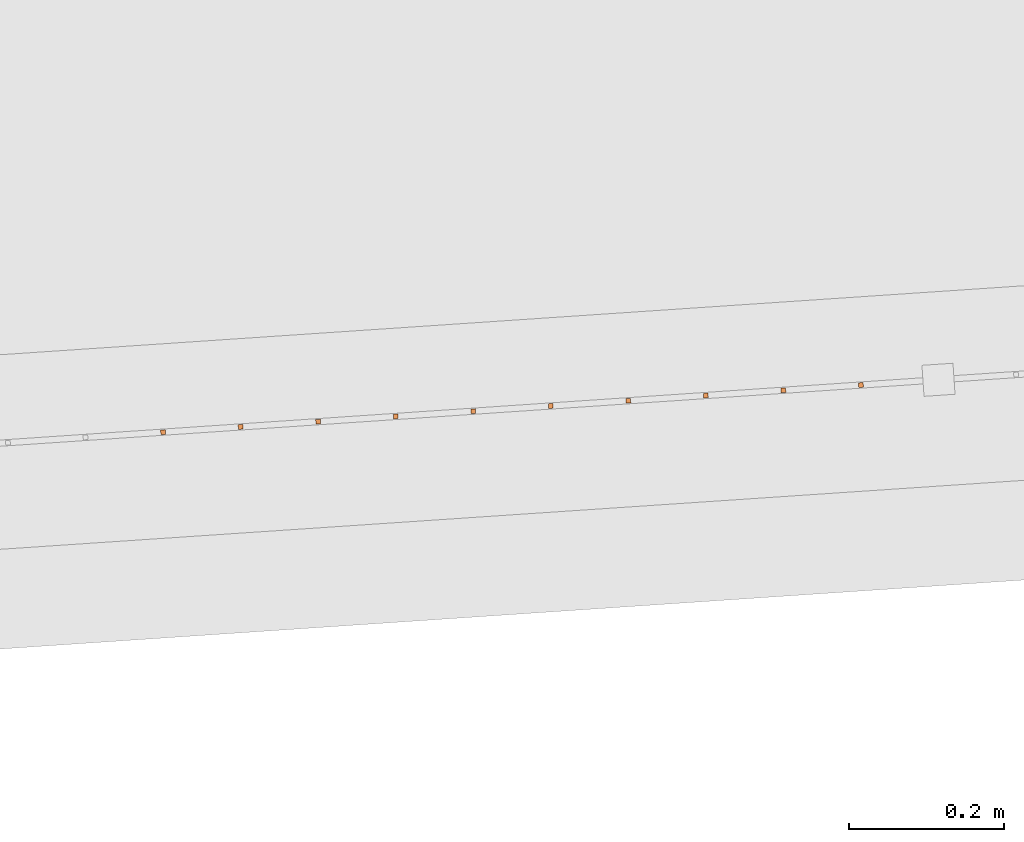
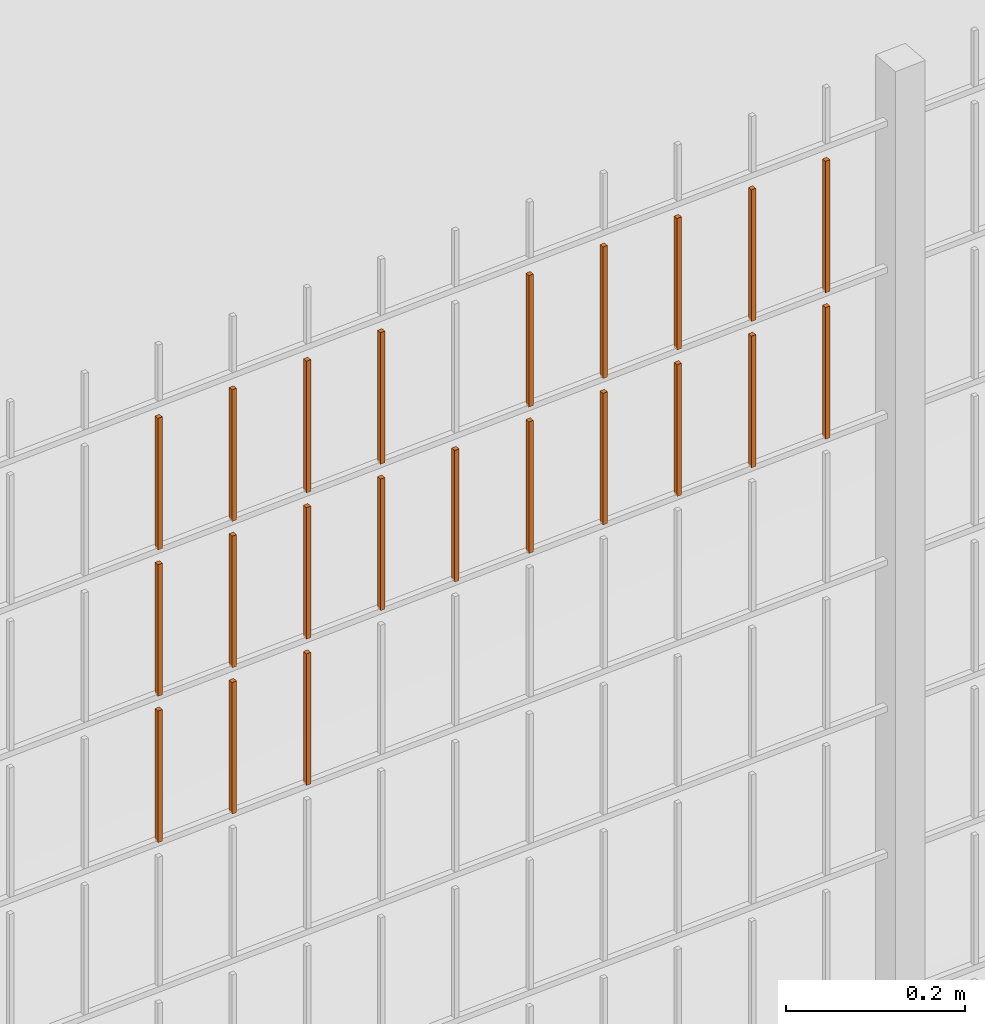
# One storey, part 153 of 1809: 22 proxies, 1 element without a shape of its own.
"""IFC2X3 building model written with IfcOpenShell, lengths in millimetres."""

from ifc_helpers import new_model, entity, si_unit, converted_unit, derived_unit, money_unit, direction, frame, origin_with_axes, place, context, subcontext, project, spatial, faceted_brep, source, transform, mapped, material, type_object, element, aggregate, save


model = new_model("IFC2X3")

# Units and contexts
model_context = context("Model", 3, precision=0.01, world=origin_with_axes(), true_north=direction((0.0, 1.0)))
body_context = subcontext(model_context, "Body", "Model", "MODEL_VIEW")
ifc_project = project(units=[si_unit("LENGTHUNIT", "METRE", prefix="MILLI"), si_unit("AREAUNIT", "SQUARE_METRE"), si_unit("VOLUMEUNIT", "CUBIC_METRE"), converted_unit("PLANEANGLEUNIT", "DEGREE", entity("IfcPlaneAngleMeasure", 0.0174532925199), si_unit("PLANEANGLEUNIT", "RADIAN"), dimensions=[0, 0, 0, 0, 0, 0, 0]), si_unit("SOLIDANGLEUNIT", "STERADIAN"), money_unit("EUR"), converted_unit("TIMEUNIT", "Year", entity("IfcTimeMeasure", 31556926.0), si_unit("TIMEUNIT", "SECOND"), dimensions=[0, 0, 1, 0, 0, 0, 0]), si_unit("MASSUNIT", "GRAM", prefix="KILO"), si_unit("THERMODYNAMICTEMPERATUREUNIT", "DEGREE_CELSIUS"), si_unit("LUMINOUSINTENSITYUNIT", "LUMEN"), si_unit("ENERGYUNIT", "JOULE", prefix="MEGA"), derived_unit("THERMALCONDUCTANCEUNIT", [(si_unit("POWERUNIT", "WATT"), 1), (si_unit("LENGTHUNIT", "METRE"), -1), (si_unit("THERMODYNAMICTEMPERATUREUNIT", "KELVIN"), -1)]), derived_unit("SPECIFICHEATCAPACITYUNIT", [(si_unit("ENERGYUNIT", "JOULE"), 1), (si_unit("MASSUNIT", "GRAM", prefix="KILO"), -1), (si_unit("THERMODYNAMICTEMPERATUREUNIT", "KELVIN"), -1)]), derived_unit("MASSDENSITYUNIT", [(si_unit("MASSUNIT", "GRAM", prefix="KILO"), 1), (si_unit("VOLUMEUNIT", "CUBIC_METRE"), -1)])], contexts=[model_context])

# Site, building, storey
site_placement = place(None, origin_with_axes())
site = spatial("IfcSite", under=ifc_project, at=site_placement, Name="Politse- ja Piirivalveameti ning Päästeameti ühishoone", CompositionType="ELEMENT")
building_placement = place(site_placement, origin_with_axes())
building = spatial("IfcBuilding", under=site, at=building_placement, Name="Politse- ja Piirivalveameti ning Päästeameti ühishoone", CompositionType="ELEMENT")
storey_placement = place(building_placement, origin_with_axes())
storey = spatial("IfcBuildingStorey", under=building, at=storey_placement, Name="Esimene korrus", CompositionType="ELEMENT", Elevation=0.0)

# Proxies
building_element_proxy_type_1 = type_object("IfcBuildingElementProxyType", Name="Railing Type", PredefinedType="NOTDEFINED")
proxy_1_placement = place(storey_placement, frame((89252.001212, -29183.4766571, 203.661247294), z_axis=(0.0, 0.0, 1.0), x_axis=(1.0, 0.0, 0.0)))
proxy_1 = element("IfcBuildingElementProxy", 1, at=proxy_1_placement, inside=storey, type_object=building_element_proxy_type_1, Name="PIIRDEAED")
ifc_material = material(Name="ET-03_Raud")
building_element_proxy_type_2 = type_object("IfcBuildingElementProxyType", Name="IfcBuildingElementProxy", PredefinedType="NOTDEFINED")
shared_shape_1 = source(origin_with_axes(), body_context, "Body", "Brep", [
    faceted_brep([(3.0, 3.0, -0.000752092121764), (-3.0, 3.0, -0.000752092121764), (-3.0, 3.0, 179.99926046), (3.0, 3.0, 179.99926046), (3.0, -3.0, 0.000752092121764), (-3.0, -3.0, 0.000752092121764), (-3.0, -3.0, 180.000764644), (3.0, -3.0, 180.000764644)], [[[0, 1, 2, 3]], [[0, 4, 5, 1]], [[1, 5, 6, 2]], [[3, 2, 6, 7]], [[4, 0, 3, 7]], [[5, 4, 7, 6]]]),
])
proxy_2_placement = place(proxy_1_placement, frame((-82339.0660394, -22859.4679361, 1606.54516156), z_axis=(0.0, 0.0, 1.0), x_axis=(1.0, 0.0, 0.0)))
proxy_2 = element("IfcBuildingElementProxy", 2, at=proxy_2_placement, type_object=building_element_proxy_type_2, material=ifc_material, Name="BALUSTER - 001", context=body_context, shape_type="MappedRepresentation", body=[
    mapped(shared_shape_1, transform((0.0, 0.0, 0.0), x_axis=(-0.0673926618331, 0.997726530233, 0.0), y_axis=(-0.997726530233, -0.0673926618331, 0.0), z_axis=(0.0, 0.0, 1.0))),
])
shared_shape_2 = source(origin_with_axes(), body_context, "Body", "Brep", [
    faceted_brep([(3.0, 3.0, -0.000752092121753), (-3.0, 3.0, -0.000752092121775), (-3.0, 3.0, 179.99926046), (3.0, 3.0, 179.99926046), (3.0, -3.0, 0.000752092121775), (-3.0, -3.0, 0.000752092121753), (-3.0, -3.0, 180.000764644), (3.0, -3.0, 180.000764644)], [[[0, 1, 2, 3]], [[0, 4, 5, 1]], [[1, 5, 6, 2]], [[3, 2, 6, 7]], [[4, 0, 3, 7]], [[5, 4, 7, 6]]]),
])
proxy_3_placement = place(proxy_1_placement, frame((-82837.9293045, -22893.1642671, 1606.41981287), z_axis=(0.0, 0.0, 1.0), x_axis=(1.0, 0.0, 0.0)))
proxy_3 = element("IfcBuildingElementProxy", 3, at=proxy_3_placement, type_object=building_element_proxy_type_2, material=ifc_material, Name="BALUSTER - 001", context=body_context, shape_type="MappedRepresentation", body=[
    mapped(shared_shape_2, transform((0.0, 0.0, 0.0), x_axis=(-0.0673926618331, 0.997726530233, 0.0), y_axis=(-0.997726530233, -0.0673926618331, 0.0), z_axis=(0.0, 0.0, 1.0))),
])
shared_shape_3 = source(origin_with_axes(), body_context, "Body", "Brep", [
    faceted_brep([(3.0, 3.0, -0.000752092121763), (-3.0, 3.0, -0.000752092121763), (-3.0, 3.0, 179.99926046), (3.0, 3.0, 179.99926046), (3.0, -3.0, 0.000752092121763), (-3.0, -3.0, 0.000752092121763), (-3.0, -3.0, 180.000764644), (3.0, -3.0, 180.000764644)], [[[0, 1, 2, 3]], [[0, 4, 5, 1]], [[1, 5, 6, 2]], [[3, 2, 6, 7]], [[4, 0, 3, 7]], [[5, 4, 7, 6]]]),
])
proxy_4_placement = place(proxy_1_placement, frame((-82339.0660394, -22859.4679361, 1806.54516156), z_axis=(0.0, 0.0, 1.0), x_axis=(1.0, 0.0, 0.0)))
proxy_4 = element("IfcBuildingElementProxy", 4, at=proxy_4_placement, type_object=building_element_proxy_type_2, material=ifc_material, Name="BALUSTER - 001", context=body_context, shape_type="MappedRepresentation", body=[
    mapped(shared_shape_3, transform((0.0, 0.0, 0.0), x_axis=(-0.0673926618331, 0.997726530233, 0.0), y_axis=(-0.997726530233, -0.0673926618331, 0.0), z_axis=(0.0, 0.0, 1.0))),
])
shared_shape_4 = source(origin_with_axes(), body_context, "Body", "Brep", [
    faceted_brep([(3.0, 3.0, -0.000752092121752), (-3.0, 3.0, -0.000752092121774), (-3.0, 3.0, 179.99926046), (3.0, 3.0, 179.99926046), (3.0, -3.0, 0.000752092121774), (-3.0, -3.0, 0.000752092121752), (-3.0, -3.0, 180.000764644), (3.0, -3.0, 180.000764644)], [[[0, 1, 2, 3]], [[0, 4, 5, 1]], [[1, 5, 6, 2]], [[3, 2, 6, 7]], [[4, 0, 3, 7]], [[5, 4, 7, 6]]]),
])
proxy_5_placement = place(proxy_1_placement, frame((-83137.2472636, -22913.3820656, 1806.34460366), z_axis=(0.0, 0.0, 1.0), x_axis=(1.0, 0.0, 0.0)))
proxy_5 = element("IfcBuildingElementProxy", 5, at=proxy_5_placement, type_object=building_element_proxy_type_2, material=ifc_material, Name="BALUSTER - 001", context=body_context, shape_type="MappedRepresentation", body=[
    mapped(shared_shape_4, transform((0.0, 0.0, 0.0), x_axis=(-0.0673926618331, 0.997726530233, 0.0), y_axis=(-0.997726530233, -0.0673926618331, 0.0), z_axis=(0.0, 0.0, 1.0))),
])
shared_shape_5 = source(origin_with_axes(), body_context, "Body", "Brep", [
    faceted_brep([(3.0, 3.0, -0.000752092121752), (-3.0, 3.0, -0.000752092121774), (-3.0, 3.0, 179.99926046), (3.0, 3.0, 179.99926046), (3.0, -3.0, 0.000752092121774), (-3.0, -3.0, 0.000752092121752), (-3.0, -3.0, 180.000764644), (3.0, -3.0, 180.000764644)], [[[0, 1, 2, 3]], [[0, 4, 5, 1]], [[1, 5, 6, 2]], [[3, 2, 6, 7]], [[4, 0, 3, 7]], [[5, 4, 7, 6]]]),
])
proxy_6_placement = place(proxy_1_placement, frame((-82239.2933864, -22852.72867, 1806.5702313), z_axis=(0.0, 0.0, 1.0), x_axis=(1.0, 0.0, 0.0)))
proxy_6 = element("IfcBuildingElementProxy", 6, at=proxy_6_placement, type_object=building_element_proxy_type_2, material=ifc_material, Name="BALUSTER - 001", context=body_context, shape_type="MappedRepresentation", body=[
    mapped(shared_shape_5, transform((0.0, 0.0, 0.0), x_axis=(-0.0673926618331, 0.997726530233, 0.0), y_axis=(-0.997726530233, -0.0673926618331, 0.0), z_axis=(0.0, 0.0, 1.0))),
])
proxy_7_placement = place(proxy_1_placement, frame((-82538.6113455, -22872.9464685, 1806.49502208), z_axis=(0.0, 0.0, 1.0), x_axis=(1.0, 0.0, 0.0)))
proxy_7 = element("IfcBuildingElementProxy", 7, at=proxy_7_placement, type_object=building_element_proxy_type_2, material=ifc_material, Name="BALUSTER - 001", context=body_context, shape_type="MappedRepresentation", body=[
    mapped(shared_shape_5, transform((0.0, 0.0, 0.0), x_axis=(-0.0673926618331, 0.997726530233, 0.0), y_axis=(-0.997726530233, -0.0673926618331, 0.0), z_axis=(0.0, 0.0, 1.0))),
])
shared_shape_6 = source(origin_with_axes(), body_context, "Body", "Brep", [
    faceted_brep([(3.0, 3.0, -0.000752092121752), (-3.0, 3.0, -0.000752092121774), (-3.0, 3.0, 179.99926046), (3.0, 3.0, 179.99926046), (3.0, -3.0, 0.000752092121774), (-3.0, -3.0, 0.000752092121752), (-3.0, -3.0, 180.000764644), (3.0, -3.0, 180.000764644)], [[[0, 1, 2, 3]], [[0, 4, 5, 1]], [[1, 5, 6, 2]], [[3, 2, 6, 7]], [[4, 0, 3, 7]], [[5, 4, 7, 6]]]),
])
proxy_8_placement = place(proxy_1_placement, frame((-82239.2933864, -22852.72867, 1606.5702313), z_axis=(0.0, 0.0, 1.0), x_axis=(1.0, 0.0, 0.0)))
proxy_8 = element("IfcBuildingElementProxy", 8, at=proxy_8_placement, type_object=building_element_proxy_type_2, material=ifc_material, Name="BALUSTER - 001", context=body_context, shape_type="MappedRepresentation", body=[
    mapped(shared_shape_6, transform((0.0, 0.0, 0.0), x_axis=(-0.0673926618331, 0.997726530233, 0.0), y_axis=(-0.997726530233, -0.0673926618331, 0.0), z_axis=(0.0, 0.0, 1.0))),
])
proxy_9_placement = place(proxy_1_placement, frame((-82538.6113455, -22872.9464685, 1606.49502208), z_axis=(0.0, 0.0, 1.0), x_axis=(1.0, 0.0, 0.0)))
proxy_9 = element("IfcBuildingElementProxy", 9, at=proxy_9_placement, type_object=building_element_proxy_type_2, material=ifc_material, Name="BALUSTER - 001", context=body_context, shape_type="MappedRepresentation", body=[
    mapped(shared_shape_6, transform((0.0, 0.0, 0.0), x_axis=(-0.0673926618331, 0.997726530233, 0.0), y_axis=(-0.997726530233, -0.0673926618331, 0.0), z_axis=(0.0, 0.0, 1.0))),
])
shared_shape_7 = source(origin_with_axes(), body_context, "Body", "Brep", [
    faceted_brep([(3.0, 3.0, -0.000752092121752), (-3.0, 3.0, -0.000752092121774), (-3.0, 3.0, 179.99926046), (3.0, 3.0, 179.99926046), (3.0, -3.0, 0.000752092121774), (-3.0, -3.0, 0.000752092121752), (-3.0, -3.0, 180.000764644), (3.0, -3.0, 180.000764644)], [[[0, 1, 2, 3]], [[0, 4, 5, 1]], [[1, 5, 6, 2]], [[3, 2, 6, 7]], [[4, 0, 3, 7]], [[5, 4, 7, 6]]]),
])
proxy_10_placement = place(proxy_1_placement, frame((-83137.2472636, -22913.3820656, 1406.34460366), z_axis=(0.0, 0.0, 1.0), x_axis=(1.0, 0.0, 0.0)))
proxy_10 = element("IfcBuildingElementProxy", 10, at=proxy_10_placement, type_object=building_element_proxy_type_2, material=ifc_material, Name="BALUSTER - 001", context=body_context, shape_type="MappedRepresentation", body=[
    mapped(shared_shape_7, transform((0.0, 0.0, 0.0), x_axis=(-0.0673926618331, 0.997726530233, 0.0), y_axis=(-0.997726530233, -0.0673926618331, 0.0), z_axis=(0.0, 0.0, 1.0))),
])
proxy_11_placement = place(proxy_1_placement, frame((-83137.2472636, -22913.3820656, 1606.34460366), z_axis=(0.0, 0.0, 1.0), x_axis=(1.0, 0.0, 0.0)))
proxy_11 = element("IfcBuildingElementProxy", 11, at=proxy_11_placement, type_object=building_element_proxy_type_2, material=ifc_material, Name="BALUSTER - 001", context=body_context, shape_type="MappedRepresentation", body=[
    mapped(shared_shape_7, transform((0.0, 0.0, 0.0), x_axis=(-0.0673926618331, 0.997726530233, 0.0), y_axis=(-0.997726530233, -0.0673926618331, 0.0), z_axis=(0.0, 0.0, 1.0))),
])
shared_shape_8 = source(origin_with_axes(), body_context, "Body", "Brep", [
    faceted_brep([(3.0, 3.0, -0.000752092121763), (-3.0, 3.0, -0.000752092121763), (-3.0, 3.0, 179.99926046), (3.0, 3.0, 179.99926046), (3.0, -3.0, 0.000752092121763), (-3.0, -3.0, 0.000752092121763), (-3.0, -3.0, 180.000764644), (3.0, -3.0, 180.000764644)], [[[0, 1, 2, 3]], [[0, 4, 5, 1]], [[1, 5, 6, 2]], [[3, 2, 6, 7]], [[4, 0, 3, 7]], [[5, 4, 7, 6]]]),
])
proxy_12_placement = place(proxy_1_placement, frame((-83037.4746106, -22906.6427994, 1806.3696734), z_axis=(0.0, 0.0, 1.0), x_axis=(1.0, 0.0, 0.0)))
proxy_12 = element("IfcBuildingElementProxy", 12, at=proxy_12_placement, type_object=building_element_proxy_type_2, material=ifc_material, Name="BALUSTER - 001", context=body_context, shape_type="MappedRepresentation", body=[
    mapped(shared_shape_8, transform((0.0, 0.0, 0.0), x_axis=(-0.0673926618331, 0.997726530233, 0.0), y_axis=(-0.997726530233, -0.0673926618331, 0.0), z_axis=(0.0, 0.0, 1.0))),
])
shared_shape_9 = source(origin_with_axes(), body_context, "Body", "Brep", [
    faceted_brep([(3.0, 3.0, -0.000752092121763), (-3.0, 3.0, -0.000752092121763), (-3.0, 3.0, 179.99926046), (3.0, 3.0, 179.99926046), (3.0, -3.0, 0.000752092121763), (-3.0, -3.0, 0.000752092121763), (-3.0, -3.0, 180.000764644), (3.0, -3.0, 180.000764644)], [[[0, 1, 2, 3]], [[0, 4, 5, 1]], [[1, 5, 6, 2]], [[3, 2, 6, 7]], [[4, 0, 3, 7]], [[5, 4, 7, 6]]]),
])
proxy_13_placement = place(proxy_1_placement, frame((-82638.3839985, -22879.6857347, 1806.46995235), z_axis=(0.0, 0.0, 1.0), x_axis=(1.0, 0.0, 0.0)))
proxy_13 = element("IfcBuildingElementProxy", 13, at=proxy_13_placement, type_object=building_element_proxy_type_2, material=ifc_material, Name="BALUSTER - 001", context=body_context, shape_type="MappedRepresentation", body=[
    mapped(shared_shape_9, transform((0.0, 0.0, 0.0), x_axis=(-0.0673926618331, 0.997726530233, 0.0), y_axis=(-0.997726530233, -0.0673926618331, 0.0), z_axis=(0.0, 0.0, 1.0))),
])
shared_shape_10 = source(origin_with_axes(), body_context, "Body", "Brep", [
    faceted_brep([(3.0, 3.0, -0.000752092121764), (-3.0, 3.0, -0.000752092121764), (-3.0, 3.0, 179.99926046), (3.0, 3.0, 179.99926046), (3.0, -3.0, 0.000752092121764), (-3.0, -3.0, 0.000752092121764), (-3.0, -3.0, 180.000764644), (3.0, -3.0, 180.000764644)], [[[0, 1, 2, 3]], [[0, 4, 5, 1]], [[1, 5, 6, 2]], [[3, 2, 6, 7]], [[4, 0, 3, 7]], [[5, 4, 7, 6]]]),
])
proxy_14_placement = place(proxy_1_placement, frame((-82438.8386924, -22866.2072023, 1606.52009182), z_axis=(0.0, 0.0, 1.0), x_axis=(1.0, 0.0, 0.0)))
proxy_14 = element("IfcBuildingElementProxy", 14, at=proxy_14_placement, type_object=building_element_proxy_type_2, material=ifc_material, Name="BALUSTER - 001", context=body_context, shape_type="MappedRepresentation", body=[
    mapped(shared_shape_10, transform((0.0, 0.0, 0.0), x_axis=(-0.0673926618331, 0.997726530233, 0.0), y_axis=(-0.997726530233, -0.0673926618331, 0.0), z_axis=(0.0, 0.0, 1.0))),
])
shared_shape_11 = source(origin_with_axes(), body_context, "Body", "Brep", [
    faceted_brep([(3.0, 3.0, -0.000752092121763), (-3.0, 3.0, -0.000752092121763), (-3.0, 3.0, 179.99926046), (3.0, 3.0, 179.99926046), (3.0, -3.0, 0.000752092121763), (-3.0, -3.0, 0.000752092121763), (-3.0, -3.0, 180.000764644), (3.0, -3.0, 180.000764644)], [[[0, 1, 2, 3]], [[0, 4, 5, 1]], [[1, 5, 6, 2]], [[3, 2, 6, 7]], [[4, 0, 3, 7]], [[5, 4, 7, 6]]]),
])
proxy_15_placement = place(proxy_1_placement, frame((-82638.3839985, -22879.6857347, 1606.46995235), z_axis=(0.0, 0.0, 1.0), x_axis=(1.0, 0.0, 0.0)))
proxy_15 = element("IfcBuildingElementProxy", 15, at=proxy_15_placement, type_object=building_element_proxy_type_2, material=ifc_material, Name="BALUSTER - 001", context=body_context, shape_type="MappedRepresentation", body=[
    mapped(shared_shape_11, transform((0.0, 0.0, 0.0), x_axis=(-0.0673926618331, 0.997726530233, 0.0), y_axis=(-0.997726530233, -0.0673926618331, 0.0), z_axis=(0.0, 0.0, 1.0))),
])
shared_shape_12 = source(origin_with_axes(), body_context, "Body", "Brep", [
    faceted_brep([(3.0, 3.0, -0.000752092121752), (-3.0, 3.0, -0.000752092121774), (-3.0, 3.0, 179.99926046), (3.0, 3.0, 179.99926046), (3.0, -3.0, 0.000752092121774), (-3.0, -3.0, 0.000752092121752), (-3.0, -3.0, 180.000764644), (3.0, -3.0, 180.000764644)], [[[0, 1, 2, 3]], [[0, 4, 5, 1]], [[1, 5, 6, 2]], [[3, 2, 6, 7]], [[4, 0, 3, 7]], [[5, 4, 7, 6]]]),
])
proxy_16_placement = place(proxy_1_placement, frame((-82738.1566515, -22886.4250009, 1606.44488261), z_axis=(0.0, 0.0, 1.0), x_axis=(1.0, 0.0, 0.0)))
proxy_16 = element("IfcBuildingElementProxy", 16, at=proxy_16_placement, type_object=building_element_proxy_type_2, material=ifc_material, Name="BALUSTER - 001", context=body_context, shape_type="MappedRepresentation", body=[
    mapped(shared_shape_12, transform((0.0, 0.0, 0.0), x_axis=(-0.0673926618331, 0.997726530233, 0.0), y_axis=(-0.997726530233, -0.0673926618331, 0.0), z_axis=(0.0, 0.0, 1.0))),
])
shared_shape_13 = source(origin_with_axes(), body_context, "Body", "Brep", [
    faceted_brep([(3.0, 3.0, -0.000752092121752), (-3.0, 3.0, -0.000752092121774), (-3.0, 3.0, 179.99926046), (3.0, 3.0, 179.99926046), (3.0, -3.0, 0.000752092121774), (-3.0, -3.0, 0.000752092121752), (-3.0, -3.0, 180.000764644), (3.0, -3.0, 180.000764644)], [[[0, 1, 2, 3]], [[0, 4, 5, 1]], [[1, 5, 6, 2]], [[3, 2, 6, 7]], [[4, 0, 3, 7]], [[5, 4, 7, 6]]]),
])
proxy_17_placement = place(proxy_1_placement, frame((-82937.7019576, -22899.9035332, 1406.39474313), z_axis=(0.0, 0.0, 1.0), x_axis=(1.0, 0.0, 0.0)))
proxy_17 = element("IfcBuildingElementProxy", 17, at=proxy_17_placement, type_object=building_element_proxy_type_2, material=ifc_material, Name="BALUSTER - 001", context=body_context, shape_type="MappedRepresentation", body=[
    mapped(shared_shape_13, transform((0.0, 0.0, 0.0), x_axis=(-0.0673926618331, 0.997726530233, 0.0), y_axis=(-0.997726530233, -0.0673926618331, 0.0), z_axis=(0.0, 0.0, 1.0))),
])
proxy_18_placement = place(proxy_1_placement, frame((-82937.7019576, -22899.9035332, 1606.39474313), z_axis=(0.0, 0.0, 1.0), x_axis=(1.0, 0.0, 0.0)))
proxy_18 = element("IfcBuildingElementProxy", 18, at=proxy_18_placement, type_object=building_element_proxy_type_2, material=ifc_material, Name="BALUSTER - 001", context=body_context, shape_type="MappedRepresentation", body=[
    mapped(shared_shape_13, transform((0.0, 0.0, 0.0), x_axis=(-0.0673926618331, 0.997726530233, 0.0), y_axis=(-0.997726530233, -0.0673926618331, 0.0), z_axis=(0.0, 0.0, 1.0))),
])
shared_shape_14 = source(origin_with_axes(), body_context, "Body", "Brep", [
    faceted_brep([(3.0, 3.0, -0.000752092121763), (-3.0, 3.0, -0.000752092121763), (-3.0, 3.0, 179.99926046), (3.0, 3.0, 179.99926046), (3.0, -3.0, 0.000752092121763), (-3.0, -3.0, 0.000752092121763), (-3.0, -3.0, 180.000764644), (3.0, -3.0, 180.000764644)], [[[0, 1, 2, 3]], [[0, 4, 5, 1]], [[1, 5, 6, 2]], [[3, 2, 6, 7]], [[4, 0, 3, 7]], [[5, 4, 7, 6]]]),
])
proxy_19_placement = place(proxy_1_placement, frame((-83037.4746106, -22906.6427994, 1406.3696734), z_axis=(0.0, 0.0, 1.0), x_axis=(1.0, 0.0, 0.0)))
proxy_19 = element("IfcBuildingElementProxy", 19, at=proxy_19_placement, type_object=building_element_proxy_type_2, material=ifc_material, Name="BALUSTER - 001", context=body_context, shape_type="MappedRepresentation", body=[
    mapped(shared_shape_14, transform((0.0, 0.0, 0.0), x_axis=(-0.0673926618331, 0.997726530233, 0.0), y_axis=(-0.997726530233, -0.0673926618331, 0.0), z_axis=(0.0, 0.0, 1.0))),
])
proxy_20_placement = place(proxy_1_placement, frame((-83037.4746106, -22906.6427994, 1606.3696734), z_axis=(0.0, 0.0, 1.0), x_axis=(1.0, 0.0, 0.0)))
proxy_20 = element("IfcBuildingElementProxy", 20, at=proxy_20_placement, type_object=building_element_proxy_type_2, material=ifc_material, Name="BALUSTER - 001", context=body_context, shape_type="MappedRepresentation", body=[
    mapped(shared_shape_14, transform((0.0, 0.0, 0.0), x_axis=(-0.0673926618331, 0.997726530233, 0.0), y_axis=(-0.997726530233, -0.0673926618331, 0.0), z_axis=(0.0, 0.0, 1.0))),
])
shared_shape_15 = source(origin_with_axes(), body_context, "Body", "Brep", [
    faceted_brep([(3.0, 3.0, -0.000752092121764), (-3.0, 3.0, -0.000752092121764), (-3.0, 3.0, 179.99926046), (3.0, 3.0, 179.99926046), (3.0, -3.0, 0.000752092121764), (-3.0, -3.0, 0.000752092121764), (-3.0, -3.0, 180.000764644), (3.0, -3.0, 180.000764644)], [[[0, 1, 2, 3]], [[0, 4, 5, 1]], [[1, 5, 6, 2]], [[3, 2, 6, 7]], [[4, 0, 3, 7]], [[5, 4, 7, 6]]]),
])
proxy_21_placement = place(proxy_1_placement, frame((-82438.8386924, -22866.2072023, 1806.52009182), z_axis=(0.0, 0.0, 1.0), x_axis=(1.0, 0.0, 0.0)))
proxy_21 = element("IfcBuildingElementProxy", 21, at=proxy_21_placement, type_object=building_element_proxy_type_2, material=ifc_material, Name="BALUSTER - 001", context=body_context, shape_type="MappedRepresentation", body=[
    mapped(shared_shape_15, transform((0.0, 0.0, 0.0), x_axis=(-0.0673926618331, 0.997726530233, 0.0), y_axis=(-0.997726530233, -0.0673926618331, 0.0), z_axis=(0.0, 0.0, 1.0))),
])
shared_shape_16 = source(origin_with_axes(), body_context, "Body", "Brep", [
    faceted_brep([(3.0, 3.0, -0.000752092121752), (-3.0, 3.0, -0.000752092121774), (-3.0, 3.0, 179.99926046), (3.0, 3.0, 179.99926046), (3.0, -3.0, 0.000752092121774), (-3.0, -3.0, 0.000752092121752), (-3.0, -3.0, 180.000764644), (3.0, -3.0, 180.000764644)], [[[0, 1, 2, 3]], [[0, 4, 5, 1]], [[1, 5, 6, 2]], [[3, 2, 6, 7]], [[4, 0, 3, 7]], [[5, 4, 7, 6]]]),
])
proxy_22_placement = place(proxy_1_placement, frame((-82837.9293045, -22893.1642671, 1806.41981287), z_axis=(0.0, 0.0, 1.0), x_axis=(1.0, 0.0, 0.0)))
proxy_22 = element("IfcBuildingElementProxy", 22, at=proxy_22_placement, type_object=building_element_proxy_type_2, material=ifc_material, Name="BALUSTER - 001", context=body_context, shape_type="MappedRepresentation", body=[
    mapped(shared_shape_16, transform((0.0, 0.0, 0.0), x_axis=(-0.0673926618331, 0.997726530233, 0.0), y_axis=(-0.997726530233, -0.0673926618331, 0.0), z_axis=(0.0, 0.0, 1.0))),
])
shared_shape_17 = source(origin_with_axes(), body_context, "Body", "Brep", [
    faceted_brep([(3.0, 3.0, -0.000752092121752), (-3.0, 3.0, -0.000752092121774), (-3.0, 3.0, 179.99926046), (3.0, 3.0, 179.99926046), (3.0, -3.0, 0.000752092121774), (-3.0, -3.0, 0.000752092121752), (-3.0, -3.0, 180.000764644), (3.0, -3.0, 180.000764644)], [[[0, 1, 2, 3]], [[0, 4, 5, 1]], [[1, 5, 6, 2]], [[3, 2, 6, 7]], [[4, 0, 3, 7]], [[5, 4, 7, 6]]]),
])
proxy_23_placement = place(proxy_1_placement, frame((-82937.7019576, -22899.9035332, 1806.39474313), z_axis=(0.0, 0.0, 1.0), x_axis=(1.0, 0.0, 0.0)))
proxy_23 = element("IfcBuildingElementProxy", 23, at=proxy_23_placement, type_object=building_element_proxy_type_2, material=ifc_material, Name="BALUSTER - 001", context=body_context, shape_type="MappedRepresentation", body=[
    mapped(shared_shape_17, transform((0.0, 0.0, 0.0), x_axis=(-0.0673926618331, 0.997726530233, 0.0), y_axis=(-0.997726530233, -0.0673926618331, 0.0), z_axis=(0.0, 0.0, 1.0))),
])
aggregate(proxy_1, [proxy_17, proxy_19, proxy_10, proxy_8, proxy_2, proxy_14, proxy_9, proxy_15, proxy_16, proxy_3, proxy_18, proxy_20, proxy_11, proxy_6, proxy_4, proxy_21, proxy_7, proxy_13, proxy_22, proxy_23, proxy_12, proxy_5])

save(model, "model.ifc")
